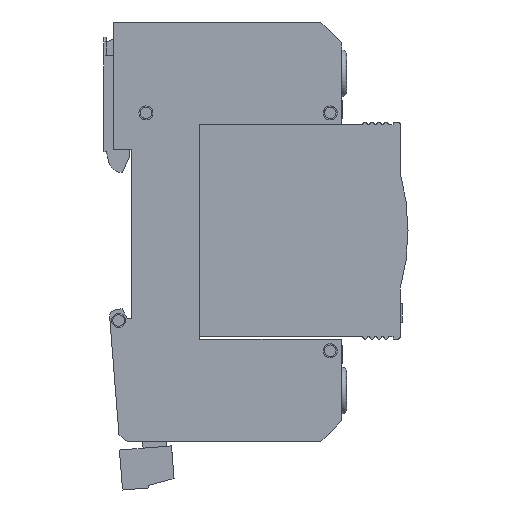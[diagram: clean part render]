
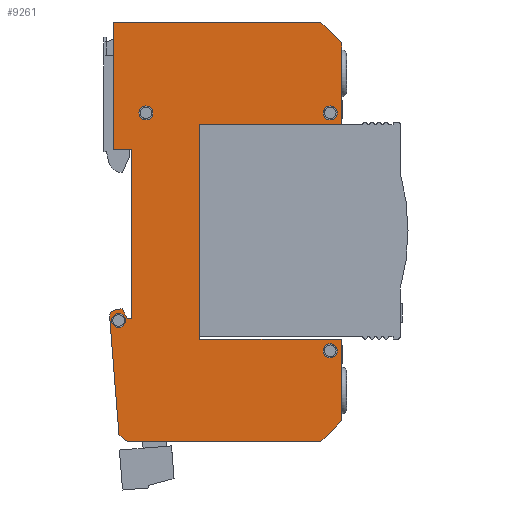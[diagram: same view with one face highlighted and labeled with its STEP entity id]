
A CAD part, front view. The second image highlights one B-rep face of the part: STEP entity #9261.
In plain terms, the highlighted planar face has unit normal (0, -1, 0).
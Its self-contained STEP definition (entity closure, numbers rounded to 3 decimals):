
#7280=CARTESIAN_POINT('',(-18.5,-18.,45.));
#7281=VERTEX_POINT('',#7280);
#7288=CARTESIAN_POINT('',(26.,-18.,45.));
#7289=VERTEX_POINT('',#7288);
#7290=CARTESIAN_POINT('',(-18.5,-18.,45.));
#7291=DIRECTION('',(1.,-0.,-0.));
#7292=VECTOR('',#7291,44.5);
#7293=LINE('',#7290,#7292);
#7294=EDGE_CURVE('',#7281,#7289,#7293,.T.);
#7388=CARTESIAN_POINT('',(26.,-18.,-45.));
#7389=VERTEX_POINT('',#7388);
#7396=CARTESIAN_POINT('',(-15.5,-18.,-45.));
#7397=VERTEX_POINT('',#7396);
#7398=CARTESIAN_POINT('',(26.,-18.,-45.));
#7399=DIRECTION('',(-1.,-0.,-0.));
#7400=VECTOR('',#7399,41.5);
#7401=LINE('',#7398,#7400);
#7402=EDGE_CURVE('',#7389,#7397,#7401,.T.);
#7596=CARTESIAN_POINT('',(-14.5,-18.,-18.5));
#7597=VERTEX_POINT('',#7596);
#7598=CARTESIAN_POINT('',(-14.5,-18.,17.75));
#7599=VERTEX_POINT('',#7598);
#7600=CARTESIAN_POINT('',(-14.5,-18.,-18.5));
#7601=DIRECTION('',(-0.,-0.,1.));
#7602=VECTOR('',#7601,36.25);
#7603=LINE('',#7600,#7602);
#7604=EDGE_CURVE('',#7597,#7599,#7603,.T.);
#7734=CARTESIAN_POINT('',(-19.273,-18.,-18.306));
#7735=VERTEX_POINT('',#7734);
#7742=CARTESIAN_POINT('',(-17.999,-18.,-16.704));
#7743=VERTEX_POINT('',#7742);
#7744=CARTESIAN_POINT('',(-17.777,-18.,-18.188));
#7745=DIRECTION('',(0.,1.,0.));
#7746=DIRECTION('',(0.,-0.,1.));
#7747=AXIS2_PLACEMENT_3D('',#7744,#7745,#7746);
#7748=CIRCLE('',#7747,1.5);
#7749=EDGE_CURVE('',#7735,#7743,#7748,.T.);
#7774=CARTESIAN_POINT('',(-16.632,-18.,-16.5));
#7775=VERTEX_POINT('',#7774);
#7776=CARTESIAN_POINT('',(-17.999,-18.,-16.704));
#7777=DIRECTION('',(0.989,-0.,0.148));
#7778=VECTOR('',#7777,1.383);
#7779=LINE('',#7776,#7778);
#7780=EDGE_CURVE('',#7743,#7775,#7779,.T.);
#7805=CARTESIAN_POINT('',(-15.5,-18.,-18.5));
#7806=VERTEX_POINT('',#7805);
#7807=CARTESIAN_POINT('',(-16.632,-18.,-16.5));
#7808=DIRECTION('',(0.492,0.,-0.87));
#7809=VECTOR('',#7808,2.298);
#7810=LINE('',#7807,#7809);
#7811=EDGE_CURVE('',#7775,#7806,#7810,.T.);
#7834=CARTESIAN_POINT('',(-15.5,-18.,-18.5));
#7835=DIRECTION('',(1.,-0.,-0.));
#7836=VECTOR('',#7835,1.);
#7837=LINE('',#7834,#7836);
#7838=EDGE_CURVE('',#7806,#7597,#7837,.T.);
#7849=CARTESIAN_POINT('',(-17.38,-18.,-17.5));
#7850=VERTEX_POINT('',#7849);
#7851=CARTESIAN_POINT('',(-18.88,-18.,-19.));
#7852=VERTEX_POINT('',#7851);
#7853=CARTESIAN_POINT('',(-17.38,-18.,-19.));
#7854=DIRECTION('',(0.,1.,0.));
#7855=DIRECTION('',(0.,-0.,1.));
#7856=AXIS2_PLACEMENT_3D('',#7853,#7854,#7855);
#7857=CIRCLE('',#7856,1.5);
#7858=EDGE_CURVE('',#7850,#7852,#7857,.T.);
#7860=CARTESIAN_POINT('',(-17.38,-18.,-19.));
#7861=DIRECTION('',(0.,1.,0.));
#7862=DIRECTION('',(0.,-0.,1.));
#7863=AXIS2_PLACEMENT_3D('',#7860,#7861,#7862);
#7864=CIRCLE('',#7863,1.5);
#7865=EDGE_CURVE('',#7852,#7850,#7864,.T.);
#8500=CARTESIAN_POINT('',(-17.29,-18.,-43.498));
#8501=VERTEX_POINT('',#8500);
#8502=CARTESIAN_POINT('',(-15.5,-18.,-45.));
#8503=DIRECTION('',(-0.766,-0.,0.643));
#8504=VECTOR('',#8503,2.337);
#8505=LINE('',#8502,#8504);
#8506=EDGE_CURVE('',#7397,#8501,#8505,.T.);
#8561=CARTESIAN_POINT('',(-17.29,-18.,-43.498));
#8562=DIRECTION('',(-0.078,-0.,0.997));
#8563=VECTOR('',#8562,25.27);
#8564=LINE('',#8561,#8563);
#8565=EDGE_CURVE('',#8501,#7735,#8564,.T.);
#8702=CARTESIAN_POINT('',(30.5,-18.,40.5));
#8703=VERTEX_POINT('',#8702);
#8704=CARTESIAN_POINT('',(26.,-18.,45.));
#8705=DIRECTION('',(0.707,0.,-0.707));
#8706=VECTOR('',#8705,6.364);
#8707=LINE('',#8704,#8706);
#8708=EDGE_CURVE('',#7289,#8703,#8707,.T.);
#8773=CARTESIAN_POINT('',(30.5,-18.,23.5));
#8774=VERTEX_POINT('',#8773);
#8775=CARTESIAN_POINT('',(30.5,-18.,40.5));
#8776=DIRECTION('',(-0.,0.,-1.));
#8777=VECTOR('',#8776,17.);
#8778=LINE('',#8775,#8777);
#8779=EDGE_CURVE('',#8703,#8774,#8778,.T.);
#8805=CARTESIAN_POINT('',(30.,-18.,23.));
#8806=VERTEX_POINT('',#8805);
#8807=CARTESIAN_POINT('',(30.,-18.,23.5));
#8808=DIRECTION('',(0.,1.,0.));
#8809=DIRECTION('',(0.,-0.,1.));
#8810=AXIS2_PLACEMENT_3D('',#8807,#8808,#8809);
#8811=CIRCLE('',#8810,0.5);
#8812=EDGE_CURVE('',#8774,#8806,#8811,.T.);
#8837=CARTESIAN_POINT('',(0.,-18.,23.));
#8838=VERTEX_POINT('',#8837);
#8839=CARTESIAN_POINT('',(30.,-18.,23.));
#8840=DIRECTION('',(-1.,-0.,-0.));
#8841=VECTOR('',#8840,30.);
#8842=LINE('',#8839,#8841);
#8843=EDGE_CURVE('',#8806,#8838,#8842,.T.);
#8868=CARTESIAN_POINT('',(0.,-18.,-23.));
#8869=VERTEX_POINT('',#8868);
#8870=CARTESIAN_POINT('',(0.,-18.,23.));
#8871=DIRECTION('',(-0.,0.,-1.));
#8872=VECTOR('',#8871,46.);
#8873=LINE('',#8870,#8872);
#8874=EDGE_CURVE('',#8838,#8869,#8873,.T.);
#8899=CARTESIAN_POINT('',(30.,-18.,-23.));
#8900=VERTEX_POINT('',#8899);
#8901=CARTESIAN_POINT('',(0.,-18.,-23.));
#8902=DIRECTION('',(1.,-0.,-0.));
#8903=VECTOR('',#8902,30.);
#8904=LINE('',#8901,#8903);
#8905=EDGE_CURVE('',#8869,#8900,#8904,.T.);
#8931=CARTESIAN_POINT('',(30.5,-18.,-23.5));
#8932=VERTEX_POINT('',#8931);
#8933=CARTESIAN_POINT('',(30.,-18.,-23.5));
#8934=DIRECTION('',(0.,1.,0.));
#8935=DIRECTION('',(0.,-0.,1.));
#8936=AXIS2_PLACEMENT_3D('',#8933,#8934,#8935);
#8937=CIRCLE('',#8936,0.5);
#8938=EDGE_CURVE('',#8900,#8932,#8937,.T.);
#8983=CARTESIAN_POINT('',(30.5,-18.,-40.5));
#8984=VERTEX_POINT('',#8983);
#8985=CARTESIAN_POINT('',(30.5,-18.,-23.5));
#8986=DIRECTION('',(-0.,0.,-1.));
#8987=VECTOR('',#8986,17.);
#8988=LINE('',#8985,#8987);
#8989=EDGE_CURVE('',#8932,#8984,#8988,.T.);
#9012=CARTESIAN_POINT('',(30.5,-18.,-40.5));
#9013=DIRECTION('',(-0.707,0.,-0.707));
#9014=VECTOR('',#9013,6.364);
#9015=LINE('',#9012,#9014);
#9016=EDGE_CURVE('',#8984,#7389,#9015,.T.);
#9073=CARTESIAN_POINT('',(28.,-18.,-24.));
#9074=VERTEX_POINT('',#9073);
#9075=CARTESIAN_POINT('',(26.5,-18.,-25.5));
#9076=VERTEX_POINT('',#9075);
#9077=CARTESIAN_POINT('',(28.,-18.,-25.5));
#9078=DIRECTION('',(0.,1.,0.));
#9079=DIRECTION('',(0.,-0.,1.));
#9080=AXIS2_PLACEMENT_3D('',#9077,#9078,#9079);
#9081=CIRCLE('',#9080,1.5);
#9082=EDGE_CURVE('',#9074,#9076,#9081,.T.);
#9084=CARTESIAN_POINT('',(28.,-18.,-25.5));
#9085=DIRECTION('',(0.,1.,0.));
#9086=DIRECTION('',(0.,-0.,1.));
#9087=AXIS2_PLACEMENT_3D('',#9084,#9085,#9086);
#9088=CIRCLE('',#9087,1.5);
#9089=EDGE_CURVE('',#9076,#9074,#9088,.T.);
#9119=CARTESIAN_POINT('',(-11.5,-18.,27.));
#9120=VERTEX_POINT('',#9119);
#9121=CARTESIAN_POINT('',(-13.,-18.,25.5));
#9122=VERTEX_POINT('',#9121);
#9123=CARTESIAN_POINT('',(-11.5,-18.,25.5));
#9124=DIRECTION('',(0.,1.,0.));
#9125=DIRECTION('',(0.,-0.,1.));
#9126=AXIS2_PLACEMENT_3D('',#9123,#9124,#9125);
#9127=CIRCLE('',#9126,1.5);
#9128=EDGE_CURVE('',#9120,#9122,#9127,.T.);
#9130=CARTESIAN_POINT('',(-11.5,-18.,25.5));
#9131=DIRECTION('',(0.,1.,0.));
#9132=DIRECTION('',(0.,-0.,1.));
#9133=AXIS2_PLACEMENT_3D('',#9130,#9131,#9132);
#9134=CIRCLE('',#9133,1.5);
#9135=EDGE_CURVE('',#9122,#9120,#9134,.T.);
#9165=CARTESIAN_POINT('',(28.,-18.,27.));
#9166=VERTEX_POINT('',#9165);
#9167=CARTESIAN_POINT('',(26.5,-18.,25.5));
#9168=VERTEX_POINT('',#9167);
#9169=CARTESIAN_POINT('',(28.,-18.,25.5));
#9170=DIRECTION('',(0.,1.,0.));
#9171=DIRECTION('',(0.,-0.,1.));
#9172=AXIS2_PLACEMENT_3D('',#9169,#9170,#9171);
#9173=CIRCLE('',#9172,1.5);
#9174=EDGE_CURVE('',#9166,#9168,#9173,.T.);
#9176=CARTESIAN_POINT('',(28.,-18.,25.5));
#9177=DIRECTION('',(0.,1.,0.));
#9178=DIRECTION('',(0.,-0.,1.));
#9179=AXIS2_PLACEMENT_3D('',#9176,#9177,#9178);
#9180=CIRCLE('',#9179,1.5);
#9181=EDGE_CURVE('',#9168,#9166,#9180,.T.);
#9206=CARTESIAN_POINT('',(0.,-18.,-0.));
#9207=DIRECTION('',(0.,1.,0.));
#9208=DIRECTION('',(0.,0.,-1.));
#9209=AXIS2_PLACEMENT_3D('',#9206,#9207,#9208);
#9210=PLANE('',#9209);
#9211=ORIENTED_EDGE('',*,*,#9181,.T.);
#9212=ORIENTED_EDGE('',*,*,#9174,.T.);
#9213=EDGE_LOOP('',(#9211,#9212));
#9214=FACE_BOUND('',#9213,.T.);
#9215=ORIENTED_EDGE('',*,*,#9135,.T.);
#9216=ORIENTED_EDGE('',*,*,#9128,.T.);
#9217=EDGE_LOOP('',(#9215,#9216));
#9218=FACE_BOUND('',#9217,.T.);
#9219=ORIENTED_EDGE('',*,*,#9089,.T.);
#9220=ORIENTED_EDGE('',*,*,#9082,.T.);
#9221=EDGE_LOOP('',(#9219,#9220));
#9222=FACE_BOUND('',#9221,.T.);
#9223=ORIENTED_EDGE('',*,*,#7865,.T.);
#9224=ORIENTED_EDGE('',*,*,#7858,.T.);
#9225=EDGE_LOOP('',(#9223,#9224));
#9226=FACE_BOUND('',#9225,.T.);
#9227=ORIENTED_EDGE('',*,*,#8506,.F.);
#9228=ORIENTED_EDGE('',*,*,#7402,.F.);
#9229=ORIENTED_EDGE('',*,*,#9016,.F.);
#9230=ORIENTED_EDGE('',*,*,#8989,.F.);
#9231=ORIENTED_EDGE('',*,*,#8938,.F.);
#9232=ORIENTED_EDGE('',*,*,#8905,.F.);
#9233=ORIENTED_EDGE('',*,*,#8874,.F.);
#9234=ORIENTED_EDGE('',*,*,#8843,.F.);
#9235=ORIENTED_EDGE('',*,*,#8812,.F.);
#9236=ORIENTED_EDGE('',*,*,#8779,.F.);
#9237=ORIENTED_EDGE('',*,*,#8708,.F.);
#9238=ORIENTED_EDGE('',*,*,#7294,.F.);
#9239=CARTESIAN_POINT('',(-18.5,-18.,17.75));
#9240=VERTEX_POINT('',#9239);
#9241=CARTESIAN_POINT('',(-18.5,-18.,45.));
#9242=DIRECTION('',(0.,0.,-1.));
#9243=VECTOR('',#9242,27.25);
#9244=LINE('',#9241,#9243);
#9245=EDGE_CURVE('',#7281,#9240,#9244,.T.);
#9246=ORIENTED_EDGE('',*,*,#9245,.T.);
#9247=CARTESIAN_POINT('',(-18.5,-18.,17.75));
#9248=DIRECTION('',(1.,-0.,-0.));
#9249=VECTOR('',#9248,4.);
#9250=LINE('',#9247,#9249);
#9251=EDGE_CURVE('',#9240,#7599,#9250,.T.);
#9252=ORIENTED_EDGE('',*,*,#9251,.T.);
#9253=ORIENTED_EDGE('',*,*,#7604,.F.);
#9254=ORIENTED_EDGE('',*,*,#7838,.F.);
#9255=ORIENTED_EDGE('',*,*,#7811,.F.);
#9256=ORIENTED_EDGE('',*,*,#7780,.F.);
#9257=ORIENTED_EDGE('',*,*,#7749,.F.);
#9258=ORIENTED_EDGE('',*,*,#8565,.F.);
#9259=EDGE_LOOP('',(#9227,#9228,#9229,#9230,#9231,#9232,#9233,#9234,#9235,#9236,#9237,#9238,#9246,#9252,#9253,#9254,#9255,#9256,#9257,#9258));
#9260=FACE_BOUND('',#9259,.T.);
#9261=ADVANCED_FACE('',(#9214,#9218,#9222,#9226,#9260),#9210,.F.);
